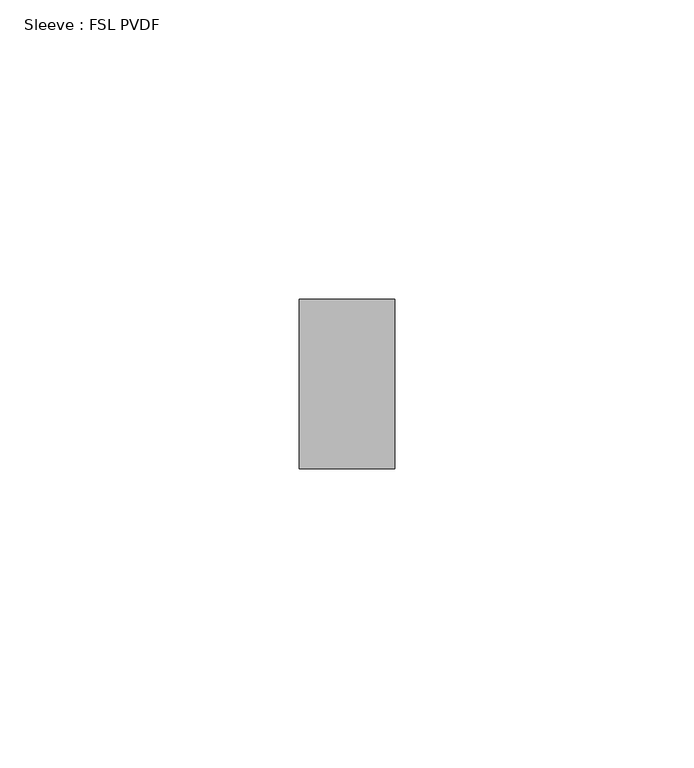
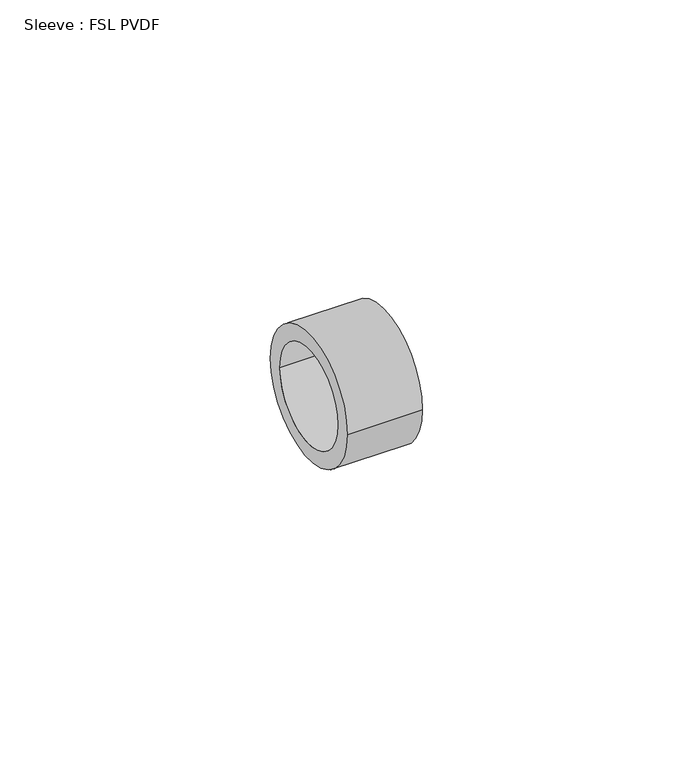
"""IFC4 building model written with IfcOpenShell, lengths in millimetres: pipe fitting geometry, Sleeve : FSL PVDF."""

from ifc_helpers import new_model, si_unit, point, frame, origin, origin_2d, place, context, project, spatial, circle_curve, trimmed, segment, composite_curve, outline, extrude, source, transform, mapped, element, save


def sleeve_fsl_pvdf_6f319e2d(model_context):
    return source(origin(), model_context, "Body", "SweptSolid", [
        extrude(outline(composite_curve([segment(trimmed(circle_curve(origin_2d(), 14.2), [point((14.2, 0.0))], [point((-14.2, 0.0))], False, "CARTESIAN"), True, "CONTINUOUS"), segment(trimmed(circle_curve(origin_2d(), 14.2), [point((-14.2, 0.0))], [point((14.2, 0.0))], False, "CARTESIAN"), True, "CONTINUOUS")], self_intersect=False), holes=[composite_curve([segment(trimmed(circle_curve(origin_2d(), 10.7), [point((10.7, 0.0))], [point((-10.7, 0.0))], True, "CARTESIAN"), True, "CONTINUOUS"), segment(trimmed(circle_curve(origin_2d(), 10.7), [point((-10.7, 0.0))], [point((10.7, 0.0))], True, "CARTESIAN"), True, "CONTINUOUS")], self_intersect=False)]), frame((0.0, 0.0, 0.0), z_axis=(1.0, 0.0, 0.0), x_axis=(0.0, 1.0, 0.0)), (0.0, 0.0, 1.0), 16.0),
    ])


if __name__ == "__main__":
    model = new_model("IFC4")
    model_context = context("Model", 3, world=origin())
    ifc_project = project(units=[si_unit("LENGTHUNIT", "METRE", prefix="MILLI")], contexts=[model_context])
    site = spatial("IfcSite", under=ifc_project)
    building = spatial("IfcBuilding", under=site)
    placement = place(None, origin())
    sleeve_fsl_pvdf_shape = sleeve_fsl_pvdf_6f319e2d(model_context)
    element("IfcPipeFitting", 1, ObjectType="Sleeve : FSL PVDF", at=placement, inside=building, context=model_context, shape_type="MappedRepresentation", body=[
        mapped(sleeve_fsl_pvdf_shape, transform((0.0, 0.0, 0.0), x_axis=(1.0, 0.0, 0.0), y_axis=(0.0, 1.0, 0.0), z_axis=(0.0, 0.0, 1.0))),
    ])
    save(model, "model.ifc")
